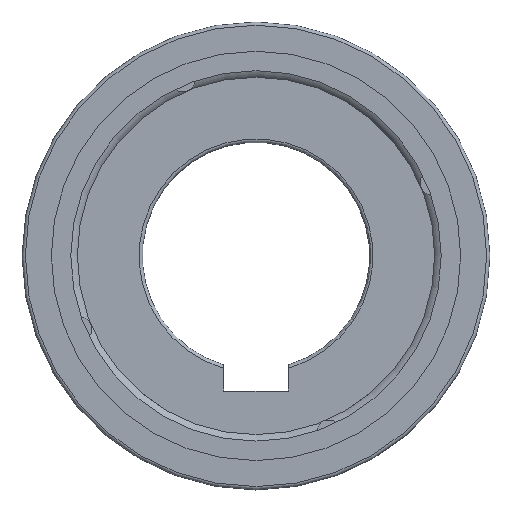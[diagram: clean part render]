
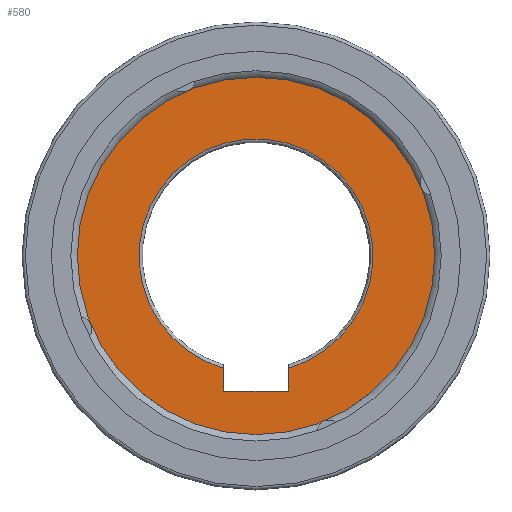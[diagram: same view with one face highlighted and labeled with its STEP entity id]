
A CAD part, top view. The second image highlights one B-rep face of the part: STEP entity #580.
In plain terms, the highlighted planar face has unit normal (0, 0, 1).
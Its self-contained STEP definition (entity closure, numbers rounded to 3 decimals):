
#367=LINE('',#2003,#441);
#368=LINE('',#2005,#442);
#369=LINE('',#2007,#443);
#441=VECTOR('',#1601,1.);
#442=VECTOR('',#1602,1.);
#443=VECTOR('',#1603,1.);
#523=PLANE('',#1428);
#580=ADVANCED_FACE('',(#681,#682),#523,.T.);
#681=FACE_BOUND('',#742,.T.);
#682=FACE_BOUND('',#743,.T.);
#742=EDGE_LOOP('',(#855,#856,#857,#858));
#743=EDGE_LOOP('',(#859));
#855=ORIENTED_EDGE('',*,*,#1219,.F.);
#856=ORIENTED_EDGE('',*,*,#1201,.T.);
#857=ORIENTED_EDGE('',*,*,#1220,.F.);
#858=ORIENTED_EDGE('',*,*,#1221,.F.);
#859=ORIENTED_EDGE('',*,*,#1218,.F.);
#1101=VERTEX_POINT('',#1890);
#1102=VERTEX_POINT('',#1891);
#1116=VERTEX_POINT('',#2001);
#1117=VERTEX_POINT('',#2004);
#1118=VERTEX_POINT('',#2006);
#1201=EDGE_CURVE('',#1101,#1102,#1337,.T.);
#1218=EDGE_CURVE('',#1116,#1116,#1350,.T.);
#1219=EDGE_CURVE('',#1101,#1117,#367,.T.);
#1220=EDGE_CURVE('',#1118,#1102,#368,.T.);
#1221=EDGE_CURVE('',#1117,#1118,#369,.T.);
#1337=CIRCLE('',#1403,18.);
#1350=CIRCLE('',#1426,27.5);
#1403=AXIS2_PLACEMENT_3D('',#1889,#1551,#1552);
#1426=AXIS2_PLACEMENT_3D('',#2000,#1597,#1598);
#1428=AXIS2_PLACEMENT_3D('',#2008,#1604,#1605);
#1551=DIRECTION('',(0.,0.,-1.));
#1552=DIRECTION('',(1.,0.,0.));
#1597=DIRECTION('',(0.,0.,-1.));
#1598=DIRECTION('',(1.,0.,0.));
#1601=DIRECTION('',(0.,-1.,0.));
#1602=DIRECTION('',(0.,1.,0.));
#1603=DIRECTION('',(1.,0.,0.));
#1604=DIRECTION('',(0.,0.,1.));
#1605=DIRECTION('',(1.,0.,0.));
#1889=CARTESIAN_POINT('',(0.,0.,17.));
#1890=CARTESIAN_POINT('',(-5.,-17.292,17.));
#1891=CARTESIAN_POINT('',(5.,-17.292,17.));
#2000=CARTESIAN_POINT('',(0.,0.,17.));
#2001=CARTESIAN_POINT('',(27.5,0.,17.));
#2003=CARTESIAN_POINT('',(-5.,-14.2,17.));
#2004=CARTESIAN_POINT('',(-5.,-20.8,17.));
#2005=CARTESIAN_POINT('',(5.,-20.8,17.));
#2006=CARTESIAN_POINT('',(5.,-20.8,17.));
#2007=CARTESIAN_POINT('',(-5.,-20.8,17.));
#2008=CARTESIAN_POINT('',(0.,0.,17.));
